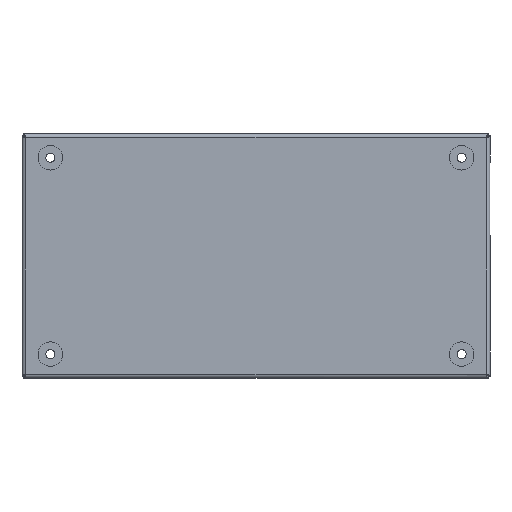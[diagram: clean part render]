
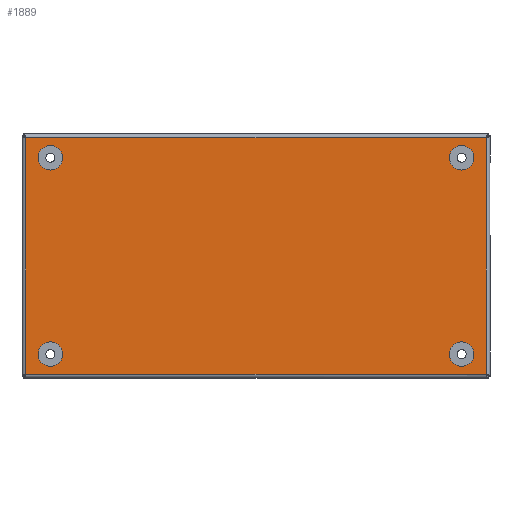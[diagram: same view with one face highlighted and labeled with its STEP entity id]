
A CAD part, top view. The second image highlights one B-rep face of the part: STEP entity #1889.
In plain terms, the highlighted planar face has unit normal (0, 0, 1).
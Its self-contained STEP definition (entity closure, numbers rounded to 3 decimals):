
#93 = DIRECTION ( 'NONE',  ( 1., 0., 0. ) ) ;
#212 = CIRCLE ( 'NONE', #2942, 10. ) ;
#220 = ORIENTED_EDGE ( 'NONE', *, *, #4782, .T. ) ;
#240 = CARTESIAN_POINT ( 'NONE',  ( 167.51, 80., 0. ) ) ;
#241 = EDGE_CURVE ( 'NONE', #3996, #1991, #465, .T. ) ;
#265 = EDGE_CURVE ( 'NONE', #1506, #2734, #212, .T. ) ;
#276 = EDGE_CURVE ( 'NONE', #2822, #1623, #3098, .T. ) ;
#281 = DIRECTION ( 'NONE',  ( 0., 0., -1. ) ) ;
#340 = DIRECTION ( 'NONE',  ( 1., 0., 0. ) ) ;
#350 = CIRCLE ( 'NONE', #4413, 10. ) ;
#382 = CARTESIAN_POINT ( 'NONE',  ( -167.51, -80., 0. ) ) ;
#385 = VERTEX_POINT ( 'NONE', #2448 ) ;
#389 = DIRECTION ( 'NONE',  ( -1., 0., 0. ) ) ;
#422 = ORIENTED_EDGE ( 'NONE', *, *, #4601, .F. ) ;
#423 = CARTESIAN_POINT ( 'NONE',  ( -187.45, 97.923, 0. ) ) ;
#465 = LINE ( 'NONE', #4553, #2323 ) ;
#574 = CIRCLE ( 'NONE', #1205, 10. ) ;
#578 = EDGE_CURVE ( 'NONE', #3269, #385, #1929, .T. ) ;
#590 = ORIENTED_EDGE ( 'NONE', *, *, #265, .F. ) ;
#596 = EDGE_LOOP ( 'NONE', ( #4039, #422 ) ) ;
#621 = CARTESIAN_POINT ( 'NONE',  ( 157.51, -80., 0. ) ) ;
#663 = AXIS2_PLACEMENT_3D ( 'NONE', #4108, #1195, #389 ) ;
#818 = DIRECTION ( 'NONE',  ( -1., 0., 0. ) ) ;
#845 = DIRECTION ( 'NONE',  ( 0., 1., 0. ) ) ;
#890 = CARTESIAN_POINT ( 'NONE',  ( 187.45, -97.923, 0. ) ) ;
#1014 = AXIS2_PLACEMENT_3D ( 'NONE', #382, #4519, #2304 ) ;
#1095 = DIRECTION ( 'NONE',  ( -1., 0., 0. ) ) ;
#1105 = AXIS2_PLACEMENT_3D ( 'NONE', #4821, #1794, #1715 ) ;
#1136 = DIRECTION ( 'NONE',  ( 0., -1., 0. ) ) ;
#1195 = DIRECTION ( 'NONE',  ( 0., 0., 1. ) ) ;
#1205 = AXIS2_PLACEMENT_3D ( 'NONE', #4055, #1466, #2920 ) ;
#1276 = CARTESIAN_POINT ( 'NONE',  ( -187.45, 96.3, 0. ) ) ;
#1384 = VERTEX_POINT ( 'NONE', #1276 ) ;
#1420 = EDGE_LOOP ( 'NONE', ( #590, #2076 ) ) ;
#1451 = CARTESIAN_POINT ( 'NONE',  ( 177.51, -80., 0. ) ) ;
#1466 = DIRECTION ( 'NONE',  ( 0., 0., 1. ) ) ;
#1506 = VERTEX_POINT ( 'NONE', #3263 ) ;
#1586 = DIRECTION ( 'NONE',  ( 0., 0., 1. ) ) ;
#1623 = VERTEX_POINT ( 'NONE', #2337 ) ;
#1715 = DIRECTION ( 'NONE',  ( 1., 0., 0. ) ) ;
#1794 = DIRECTION ( 'NONE',  ( 0., 0., 1. ) ) ;
#1831 = CIRCLE ( 'NONE', #663, 10. ) ;
#1889 = ADVANCED_FACE ( 'NONE', ( #2790, #4293, #3916, #2520, #3276 ), #3643, .F. ) ;
#1929 = CIRCLE ( 'NONE', #2543, 10. ) ;
#1991 = VERTEX_POINT ( 'NONE', #3252 ) ;
#2022 = VERTEX_POINT ( 'NONE', #621 ) ;
#2076 = ORIENTED_EDGE ( 'NONE', *, *, #4787, .F. ) ;
#2100 = ORIENTED_EDGE ( 'NONE', *, *, #3955, .T. ) ;
#2133 = ORIENTED_EDGE ( 'NONE', *, *, #241, .T. ) ;
#2183 = CARTESIAN_POINT ( 'NONE',  ( -177.51, 80., 0. ) ) ;
#2304 = DIRECTION ( 'NONE',  ( -1., 0., 0. ) ) ;
#2323 = VECTOR ( 'NONE', #93, 1000. ) ;
#2337 = CARTESIAN_POINT ( 'NONE',  ( -157.51, 80., 0. ) ) ;
#2340 = CARTESIAN_POINT ( 'NONE',  ( -167.51, 80., 0. ) ) ;
#2401 = EDGE_CURVE ( 'NONE', #1623, #2822, #574, .T. ) ;
#2448 = CARTESIAN_POINT ( 'NONE',  ( 157.51, 80., 0. ) ) ;
#2470 = CARTESIAN_POINT ( 'NONE',  ( 0., 0., 0. ) ) ;
#2520 = FACE_BOUND ( 'NONE', #3432, .T. ) ;
#2543 = AXIS2_PLACEMENT_3D ( 'NONE', #240, #2873, #340 ) ;
#2633 = AXIS2_PLACEMENT_3D ( 'NONE', #2340, #3834, #3454 ) ;
#2708 = CARTESIAN_POINT ( 'NONE',  ( -167.51, -80., 0. ) ) ;
#2734 = VERTEX_POINT ( 'NONE', #3274 ) ;
#2790 = FACE_BOUND ( 'NONE', #1420, .T. ) ;
#2804 = EDGE_LOOP ( 'NONE', ( #3378, #4523 ) ) ;
#2822 = VERTEX_POINT ( 'NONE', #2183 ) ;
#2873 = DIRECTION ( 'NONE',  ( 0., 0., 1. ) ) ;
#2920 = DIRECTION ( 'NONE',  ( 1., 0., 0. ) ) ;
#2942 = AXIS2_PLACEMENT_3D ( 'NONE', #2708, #1586, #3068 ) ;
#2992 = EDGE_CURVE ( 'NONE', #1991, #3912, #4617, .T. ) ;
#3068 = DIRECTION ( 'NONE',  ( -1., 0., 0. ) ) ;
#3098 = CIRCLE ( 'NONE', #2633, 10. ) ;
#3240 = VECTOR ( 'NONE', #845, 1000. ) ;
#3252 = CARTESIAN_POINT ( 'NONE',  ( 187.45, -96.3, 0. ) ) ;
#3263 = CARTESIAN_POINT ( 'NONE',  ( -157.51, -80., 0. ) ) ;
#3269 = VERTEX_POINT ( 'NONE', #4596 ) ;
#3274 = CARTESIAN_POINT ( 'NONE',  ( -177.51, -80., 0. ) ) ;
#3276 = FACE_OUTER_BOUND ( 'NONE', #4529, .T. ) ;
#3290 = CARTESIAN_POINT ( 'NONE',  ( -187.45, -96.3, 0. ) ) ;
#3378 = ORIENTED_EDGE ( 'NONE', *, *, #4414, .F. ) ;
#3398 = CARTESIAN_POINT ( 'NONE',  ( 189.073, 96.3, 0. ) ) ;
#3405 = AXIS2_PLACEMENT_3D ( 'NONE', #2470, #281, #1095 ) ;
#3432 = EDGE_LOOP ( 'NONE', ( #4456, #4377 ) ) ;
#3454 = DIRECTION ( 'NONE',  ( 1., 0., 0. ) ) ;
#3499 = VECTOR ( 'NONE', #818, 1000. ) ;
#3565 = DIRECTION ( 'NONE',  ( 0., 0., 1. ) ) ;
#3568 = ORIENTED_EDGE ( 'NONE', *, *, #2992, .T. ) ;
#3643 = PLANE ( 'NONE',  #3405 ) ;
#3664 = CARTESIAN_POINT ( 'NONE',  ( 187.45, 96.3, 0. ) ) ;
#3746 = CIRCLE ( 'NONE', #1014, 10. ) ;
#3834 = DIRECTION ( 'NONE',  ( 0., 0., 1. ) ) ;
#3912 = VERTEX_POINT ( 'NONE', #3664 ) ;
#3916 = FACE_BOUND ( 'NONE', #596, .T. ) ;
#3955 = EDGE_CURVE ( 'NONE', #1384, #3996, #4090, .T. ) ;
#3987 = VERTEX_POINT ( 'NONE', #1451 ) ;
#3996 = VERTEX_POINT ( 'NONE', #3290 ) ;
#4039 = ORIENTED_EDGE ( 'NONE', *, *, #578, .F. ) ;
#4055 = CARTESIAN_POINT ( 'NONE',  ( -167.51, 80., 0. ) ) ;
#4090 = LINE ( 'NONE', #423, #4175 ) ;
#4108 = CARTESIAN_POINT ( 'NONE',  ( 167.51, -80., 0. ) ) ;
#4126 = LINE ( 'NONE', #3398, #3499 ) ;
#4157 = CARTESIAN_POINT ( 'NONE',  ( 167.51, -80., 0. ) ) ;
#4175 = VECTOR ( 'NONE', #1136, 1000. ) ;
#4293 = FACE_BOUND ( 'NONE', #2804, .T. ) ;
#4377 = ORIENTED_EDGE ( 'NONE', *, *, #276, .F. ) ;
#4413 = AXIS2_PLACEMENT_3D ( 'NONE', #4157, #3565, #4645 ) ;
#4414 = EDGE_CURVE ( 'NONE', #3987, #2022, #1831, .T. ) ;
#4450 = EDGE_CURVE ( 'NONE', #2022, #3987, #350, .T. ) ;
#4456 = ORIENTED_EDGE ( 'NONE', *, *, #2401, .F. ) ;
#4462 = CIRCLE ( 'NONE', #1105, 10. ) ;
#4519 = DIRECTION ( 'NONE',  ( 0., 0., 1. ) ) ;
#4523 = ORIENTED_EDGE ( 'NONE', *, *, #4450, .F. ) ;
#4529 = EDGE_LOOP ( 'NONE', ( #3568, #220, #2100, #2133 ) ) ;
#4553 = CARTESIAN_POINT ( 'NONE',  ( -189.073, -96.3, 0. ) ) ;
#4596 = CARTESIAN_POINT ( 'NONE',  ( 177.51, 80., 0. ) ) ;
#4601 = EDGE_CURVE ( 'NONE', #385, #3269, #4462, .T. ) ;
#4617 = LINE ( 'NONE', #890, #3240 ) ;
#4645 = DIRECTION ( 'NONE',  ( -1., 0., 0. ) ) ;
#4782 = EDGE_CURVE ( 'NONE', #3912, #1384, #4126, .T. ) ;
#4787 = EDGE_CURVE ( 'NONE', #2734, #1506, #3746, .T. ) ;
#4821 = CARTESIAN_POINT ( 'NONE',  ( 167.51, 80., 0. ) ) ;
